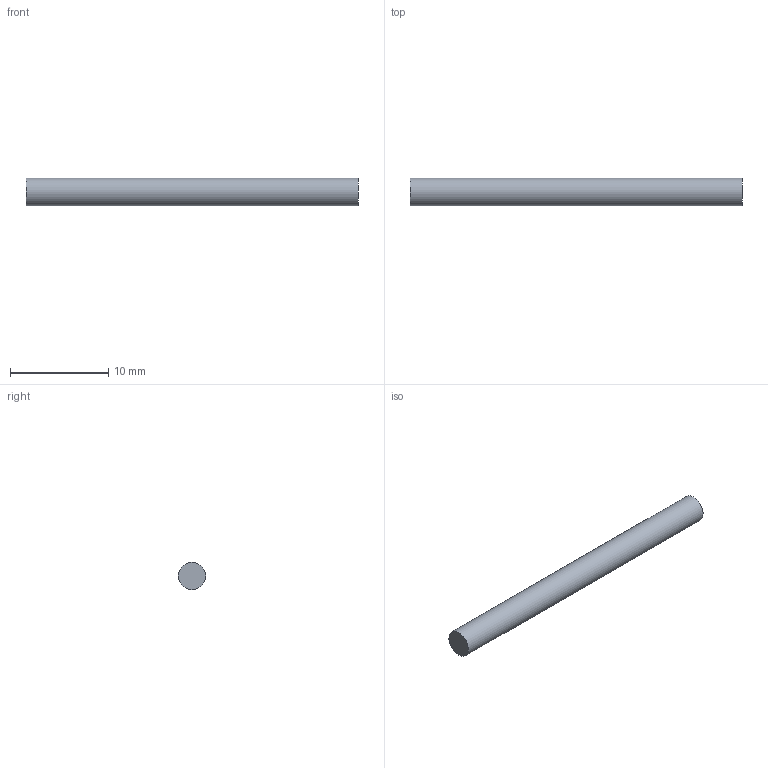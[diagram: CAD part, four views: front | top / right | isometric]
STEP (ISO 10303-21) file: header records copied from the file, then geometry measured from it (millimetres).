
FILE_DESCRIPTION(/* description */ ('STEP AP242 Edition 2','CAx-IF Rec.Pracs.---Representation and Presentation of Product Manufacturing Information (PMI)---4.0---2014-10-13','CAx-IF Rec.Pracs.---3D Tessellated Geometry---0.4---2014-09-14','2;1','CAx-IF Rec.Pracs.---User Defined Attributes---1.5---2016-08-15'),/* implementation_level */ '2;1');
FILE_NAME(/* name */ 'Controller - left trigger 2 rod',/* time_stamp */ '2026-11-08T20:41:34Z',/* author */ (''),/* organization */ (''),/* preprocessor_version */ 'ST-DEVELOPER v20',/* originating_system */ 'ONSHAPE BY PTC INC, 1.223',/* authorisation */ ' ');
FILE_SCHEMA (('AP242_MANAGED_MODEL_BASED_3D_ENGINEERING_MIM_LF { 1 0 10303 442 3 1 4 }'));
Length unit declared in the file: metre
Products named in the file (1): left trigger 2 rod
Bounding box: 33.77 x 2.8 x 2.8 mm (x, y, z)
Volume: 207.9 mm3; surface area: 309.4 mm2
Topology: 1 solids, 1 shells, 3 faces, 3 edges, 2 vertices
Faces by surface type: plane 2, cylinder 1
Full cylindrical faces by diameter (mm): 2.8 x1
Entity records: 76 total; most frequent: DIRECTION 12, CARTESIAN_POINT 8, AXIS2_PLACEMENT_3D 6, ORIENTED_EDGE 4, EDGE_LOOP 4, FACE_BOUND 4, ADVANCED_FACE 3, PLANE 2
